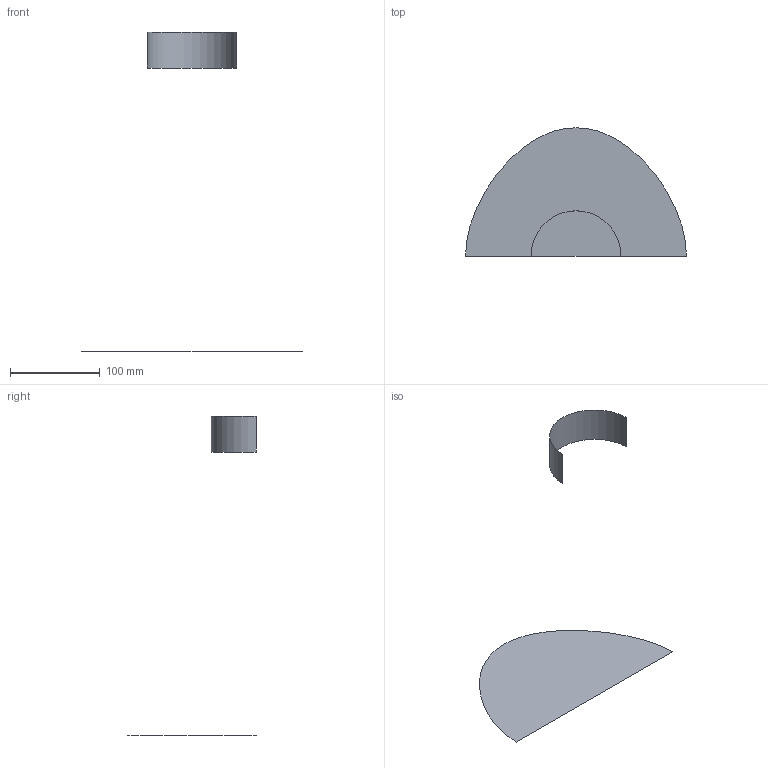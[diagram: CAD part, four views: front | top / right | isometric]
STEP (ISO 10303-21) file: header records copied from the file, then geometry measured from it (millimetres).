
FILE_DESCRIPTION(('CATIA V5 STEP Exchange'),'2;1');
FILE_NAME('C:\_Andres\UNIVERSIDAD\IQS\ASIGNATURAS\DAO\Controles\1617\c1\1original\Sarrió_Mercade_Ej00-base_v33.stp','2017-02-06T16:27:56+00:00',('none'),('none'),'CATIA Version 5-6 Release 2014 SP1 HF18','CATIA V5 STEP AP203','none');
FILE_SCHEMA(('CONFIG_CONTROL_DESIGN'));
Length unit declared in the file: millimetre
Products named in the file (1): Sarrió_Mercade_Ej00-base_v33
Bounding box: 246 x 143 x 356 mm (x, y, z)
Surface area: 32755.7 mm2 (no closed solid volume)
Topology: 0 solids, 2 shells, 2 faces, 16 edges, 26 vertices
Faces by surface type: cylinder 1, plane 1
Entity records: 230 total; most frequent: CARTESIAN_POINT 78, DIRECTION 16, COMPOSITE_CURVE_SEGMENT 9, TRIMMED_CURVE 9, AXIS2_PLACEMENT_3D 8, COMPOSITE_CURVE 7, ORIENTED_EDGE 7, EDGE_CURVE 7
